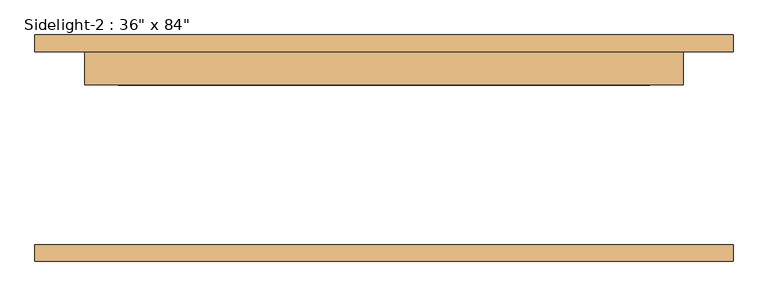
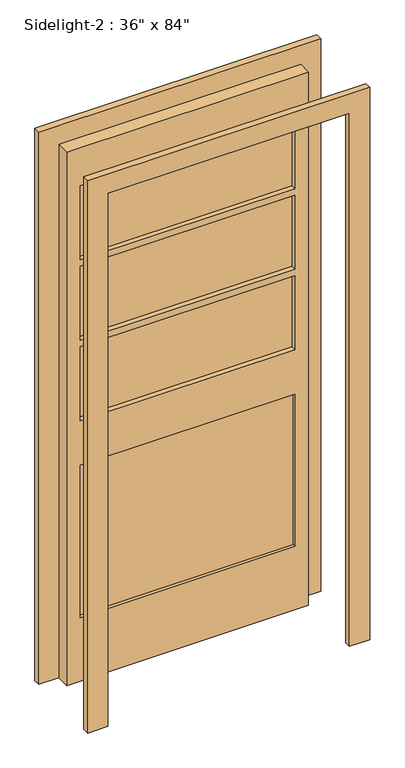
"""IFC4 building model written with IfcOpenShell, lengths in millimetres: door geometry."""

from ifc_helpers import new_model, si_unit, frame, origin, place, context, project, spatial, polyline, outline, extrude, source, transform, mapped, element, save


def door_8492d491(model_context):
    return source(origin(), model_context, "Body", "SweptSolid", [
        extrude(outline(polyline([(-127.0, 134.9375), (685.8, 134.9375), (685.8, 109.5375), (-127.0, 109.5375), (-127.0, 134.9375)])), frame((0.0, 0.0, 254.0), z_axis=(0.0, 0.0, 1.0), x_axis=(1.0, 0.0, 0.0)), (0.0, 0.0, 1.0), 609.6),
        extrude(outline(polyline([(-127.0, 128.5875), (685.8, 128.5875), (685.8, 115.8875), (-127.0, 115.8875), (-127.0, 128.5875)])), frame((0.0, 0.0, 1684.8666667), z_axis=(0.0, 0.0, 1.0), x_axis=(1.0, 0.0, 0.0)), (0.0, 0.0, 1.0), 296.3333333),
        extrude(outline(polyline([(-127.0, 128.5875), (685.8, 128.5875), (685.8, 115.8875), (-127.0, 115.8875), (-127.0, 128.5875)])), frame((0.0, 0.0, 1363.1333333), z_axis=(0.0, 0.0, 1.0), x_axis=(1.0, 0.0, 0.0)), (0.0, 0.0, 1.0), 296.3333333),
        extrude(outline(polyline([(-127.0, 128.5875), (685.8, 128.5875), (685.8, 115.8875), (-127.0, 115.8875), (-127.0, 128.5875)])), frame((0.0, 0.0, 1041.4), z_axis=(0.0, 0.0, 1.0), x_axis=(1.0, 0.0, 0.0)), (0.0, 0.0, 1.0), 296.3333333),
        extrude(outline(polyline([(2133.6, 736.6), (2133.6, -177.8), (0.0, -177.8), (0.0, 736.6), (2133.6, 736.6)]), holes=[polyline([(1981.2, -127.0), (1981.2, 685.8), (1684.8666667, 685.8), (1684.8666667, -127.0), (1981.2, -127.0)]), polyline([(1659.4666667, -127.0), (1659.4666667, 685.8), (1363.1333333, 685.8), (1363.1333333, -127.0), (1659.4666667, -127.0)]), polyline([(1337.7333333, -127.0), (1337.7333333, 685.8), (1041.4, 685.8), (1041.4, -127.0), (1337.7333333, -127.0)]), polyline([(863.6, -127.0), (863.6, 685.8), (254.0, 685.8), (254.0, -127.0), (863.6, -127.0)])]), frame((0.0, 96.8375, 0.0), z_axis=(0.0, 1.0, 0.0), x_axis=(0.0, 0.0, 1.0)), (0.0, 0.0, 1.0), 50.8),
        extrude(outline(polyline([(2133.6, 736.6), (0.0, 736.6), (0.0, 812.8), (2209.8, 812.8), (2209.8, -254.0), (0.0, -254.0), (0.0, -177.8), (2133.6, -177.8), (2133.6, 736.6)])), frame((0.0, 147.6375, 0.0), z_axis=(0.0, 1.0, 0.0), x_axis=(0.0, 0.0, 1.0)), (0.0, 0.0, 1.0), 25.4),
        extrude(outline(polyline([(0.0, -254.0), (0.0, -177.8), (2133.6, -177.8), (2133.6, 736.6), (0.0, 736.6), (0.0, 812.8), (2209.8, 812.8), (2209.8, -254.0), (0.0, -254.0)])), frame((0.0, -173.0375, 0.0), z_axis=(0.0, 1.0, 0.0), x_axis=(0.0, 0.0, 1.0)), (0.0, 0.0, 1.0), 25.4),
    ])


if __name__ == "__main__":
    model = new_model("IFC4")
    model_context = context("Model", 3, world=origin())
    ifc_project = project(units=[si_unit("LENGTHUNIT", "METRE", prefix="MILLI")], contexts=[model_context])
    site = spatial("IfcSite", under=ifc_project)
    building = spatial("IfcBuilding", under=site)
    placement = place(None, origin())
    door_shape = door_8492d491(model_context)
    element("IfcDoor", 1, ObjectType="Sidelight-2 : 36\" x 84\"", at=placement, inside=building, context=model_context, shape_type="MappedRepresentation", body=[
        mapped(door_shape, transform((0.0, 0.0, 0.0), x_axis=(1.0, 0.0, 0.0), y_axis=(0.0, 1.0, 0.0), z_axis=(0.0, 0.0, 1.0))),
    ])
    save(model, "model.ifc")
